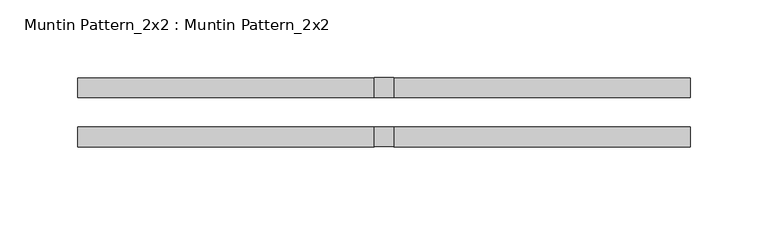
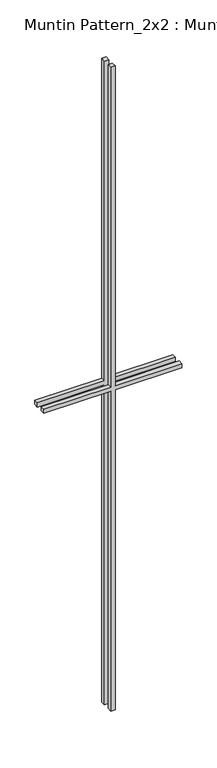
"""IFC4 building model written with IfcOpenShell, lengths in millimetres: proxy geometry, Muntin Pattern_2x2 : Muntin Pattern_2x2."""

from ifc_helpers import new_model, si_unit, frame, origin, place, context, project, spatial, polyline, outline, extrude, source, transform, mapped, element, save


def muntin_pattern_2x2_muntin_pattern_2x2_68fd71e2(model_context):
    return source(origin(), model_context, "Body", "SweptSolid", [
        extrude(outline(polyline([(977.9, -6.35), (977.9, -196.85), (965.2, -196.85), (965.2, -6.35), (0.0, -6.35), (0.0, 6.35), (965.2, 6.35), (965.2, 196.85), (977.9, 196.85), (977.9, 6.35), (1943.1, 6.35), (1943.1, -6.35), (977.9, -6.35)])), frame((0.0, -22.225, 0.0), z_axis=(0.0, 1.0, 0.0), x_axis=(0.0, 0.0, 1.0)), (0.0, 0.0, 1.0), 12.7),
        extrude(outline(polyline([(977.9, -6.35), (977.9, -196.85), (965.2, -196.85), (965.2, -6.35), (0.0, -6.35), (0.0, 6.35), (965.2, 6.35), (965.2, 196.85), (977.9, 196.85), (977.9, 6.35), (1943.1, 6.35), (1943.1, -6.35), (977.9, -6.35)])), frame((0.0, 9.525, 0.0), z_axis=(0.0, 1.0, 0.0), x_axis=(0.0, 0.0, 1.0)), (0.0, 0.0, 1.0), 12.7),
    ])


if __name__ == "__main__":
    model = new_model("IFC4")
    model_context = context("Model", 3, world=origin())
    ifc_project = project(units=[si_unit("LENGTHUNIT", "METRE", prefix="MILLI")], contexts=[model_context])
    site = spatial("IfcSite", under=ifc_project)
    building = spatial("IfcBuilding", under=site)
    placement = place(None, origin())
    muntin_pattern_2x2_muntin_pattern_2x2_shape = muntin_pattern_2x2_muntin_pattern_2x2_68fd71e2(model_context)
    element("IfcBuildingElementProxy", 1, Name="Muntin Pattern_2x2 : Muntin Pattern_2x2", ObjectType="Muntin Pattern_2x2 : Muntin Pattern_2x2", at=placement, inside=building, context=model_context, shape_type="MappedRepresentation", body=[
        mapped(muntin_pattern_2x2_muntin_pattern_2x2_shape, transform((0.0, 0.0, 0.0), x_axis=(1.0, 0.0, 0.0), y_axis=(0.0, 1.0, 0.0), z_axis=(0.0, 0.0, 1.0))),
    ])
    save(model, "model.ifc")
